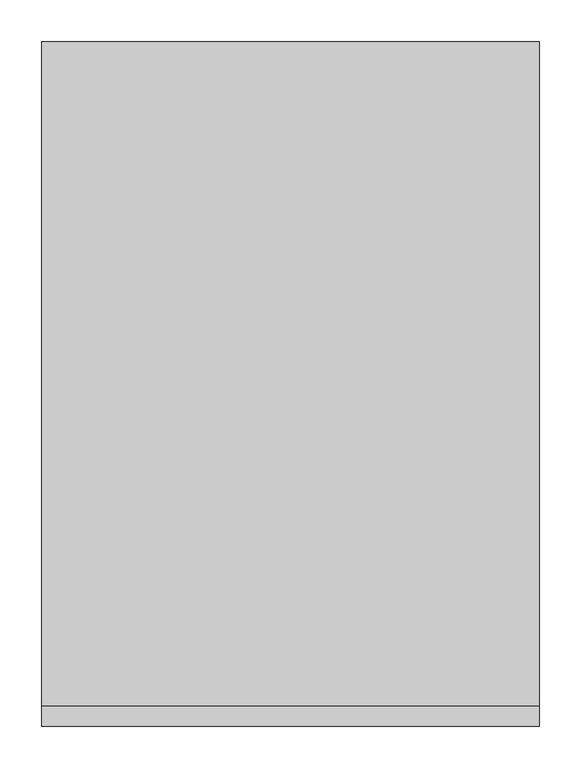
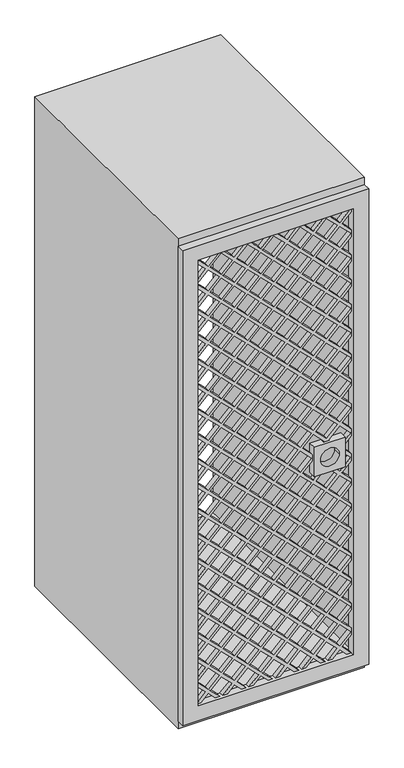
"""IFC4 building model written with IfcOpenShell, lengths in millimetres: furniture geometry, BIMHealth-Data_Acquisition_Cabinet_MRI-LOD2A-v1 : BIMHealth-Data_Acquisition_Cabinet_MRI-LOD2A-v1."""

from ifc_helpers import new_model, si_unit, point, frame, frame_2d, origin, place, context, project, spatial, polyline, circle_curve, trimmed, segment, composite_curve, outline, extrude, source, transform, mapped, element, save


def furniture_ba49cc1c(model_context):
    return source(origin(), model_context, "Body", "SweptSolid", [
        extrude(outline(polyline([(125.0, -250.0), (125.0, -235.8578644), (148.72583, -212.1320344), (125.0, -188.4062043), (125.0, -174.2640687), (155.7968978, -205.0609665), (191.1522369, -169.7056275), (155.7968978, -134.3502884), (125.0, -165.1471863), (125.0, -151.0050506), (148.72583, -127.2792206), (125.0, -103.5533906), (125.0, -89.411255), (155.7968978, -120.2081528), (191.1522369, -84.8528137), (155.7968978, -49.4974747), (125.0, -80.2943725), (125.0, -66.1522369), (148.72583, -42.4264069), (125.0, -18.7005769), (125.0, -4.5584412), (155.7968978, -35.3553391), (191.1522369, 0.0), (155.7968978, 35.3553391), (125.0, 4.5584412), (125.0, 18.7005769), (148.72583, 42.4264069), (125.0, 66.1522369), (125.0, 80.2943725), (155.7968978, 49.4974747), (191.1522369, 84.8528137), (155.7968978, 120.2081528), (125.0, 89.411255), (125.0, 103.5533906), (148.72583, 127.2792206), (125.0, 151.0050506), (125.0, 165.1471863), (155.7968978, 134.3502884), (191.1522369, 169.7056275), (155.7968978, 205.0609665), (125.0, 174.2640687), (125.0, 188.4062043), (148.72583, 212.1320344), (125.0, 235.8578644), (125.0, 250.0), (155.7968978, 219.2031022), (186.5937957, 250.0), (209.8528137, 250.0), (240.6497116, 219.2031022), (271.4466094, 250.0), (294.7056275, 250.0), (325.5025253, 219.2031022), (356.2994231, 250.0), (379.5584412, 250.0), (410.3553391, 219.2031022), (441.1522369, 250.0), (464.411255, 250.0), (495.2081528, 219.2031022), (526.0050506, 250.0), (549.2640687, 250.0), (580.0609665, 219.2031022), (610.8578644, 250.0), (634.1168825, 250.0), (664.9137803, 219.2031022), (695.7106781, 250.0), (718.9696962, 250.0), (749.766594, 219.2031022), (780.5634919, 250.0), (803.8225099, 250.0), (828.8225099, 225.0), (814.6803743, 225.0), (792.1930009, 247.4873734), (756.8376618, 212.1320344), (775.0, 193.9696962), (775.0, 179.8275606), (749.766594, 205.0609665), (714.411255, 169.7056275), (749.766594, 134.3502884), (775.0, 159.5836944), (775.0, 145.4415588), (756.8376618, 127.2792206), (792.1930009, 91.9238816), (825.2691193, 125.0), (843.9696962, 125.0), (877.0458146, 91.9238816), (912.4011537, 127.2792206), (877.0458146, 162.6345597), (875.0, 160.588745), (875.0, 178.8225099), (877.0458146, 176.7766953), (912.4011537, 212.1320344), (877.0458146, 247.4873734), (854.5584412, 225.0), (840.4163056, 225.0), (865.4163056, 250.0), (888.6753237, 250.0), (919.4722215, 219.2031022), (950.2691193, 250.0), (973.5281374, 250.0), (1004.3250353, 219.2031022), (1035.1219331, 250.0), (1058.3809512, 250.0), (1089.177849, 219.2031022), (1119.9747468, 250.0), (1143.2337649, 250.0), (1174.0306627, 219.2031022), (1204.8275606, 250.0), (1228.0865787, 250.0), (1258.8834765, 219.2031022), (1289.6803743, 250.0), (1312.9393924, 250.0), (1343.7362902, 219.2031022), (1374.5331881, 250.0), (1397.7922061, 250.0), (1428.589104, 219.2031022), (1459.3860018, 250.0), (1482.6450199, 250.0), (1513.4419177, 219.2031022), (1544.2388155, 250.0), (1567.4978336, 250.0), (1598.2947315, 219.2031022), (1629.0916293, 250.0), (1643.2337649, 250.0), (1605.3657993, 212.1320344), (1640.7211383, 176.7766953), (1645.0, 181.055557), (1645.0, 158.355698), (1640.7211383, 162.6345597), (1605.3657993, 127.2792206), (1640.7211383, 91.9238816), (1645.0, 96.2027432), (1645.0, 73.5028843), (1640.7211383, 77.7817459), (1605.3657993, 42.4264069), (1640.7211383, 7.0710678), (1645.0, 11.3499295), (1645.0, -11.3499295), (1640.7211383, -7.0710678), (1605.3657993, -42.4264069), (1640.7211383, -77.7817459), (1645.0, -73.5028843), (1645.0, -96.2027432), (1640.7211383, -91.9238816), (1605.3657993, -127.2792206), (1640.7211383, -162.6345597), (1645.0, -158.355698), (1645.0, -181.055557), (1640.7211383, -176.7766953), (1605.3657993, -212.1320344), (1643.2337649, -250.0), (1629.0916293, -250.0), (1598.2947315, -219.2031022), (1567.4978336, -250.0), (1544.2388155, -250.0), (1513.4419177, -219.2031022), (1482.6450199, -250.0), (1459.3860018, -250.0), (1428.589104, -219.2031022), (1397.7922061, -250.0), (1374.5331881, -250.0), (1343.7362902, -219.2031022), (1312.9393924, -250.0), (1289.6803743, -250.0), (1258.8834765, -219.2031022), (1228.0865787, -250.0), (1204.8275606, -250.0), (1174.0306627, -219.2031022), (1143.2337649, -250.0), (1119.9747468, -250.0), (1089.177849, -219.2031022), (1058.3809512, -250.0), (1035.1219331, -250.0), (1004.3250353, -219.2031022), (973.5281374, -250.0), (950.2691193, -250.0), (919.4722215, -219.2031022), (888.6753237, -250.0), (865.4163056, -250.0), (834.6194078, -219.2031022), (803.8225099, -250.0), (780.5634919, -250.0), (749.766594, -219.2031022), (718.9696962, -250.0), (695.7106781, -250.0), (664.9137803, -219.2031022), (634.1168825, -250.0), (610.8578644, -250.0), (580.0609665, -219.2031022), (549.2640687, -250.0), (526.0050506, -250.0), (495.2081528, -219.2031022), (464.411255, -250.0), (441.1522369, -250.0), (410.3553391, -219.2031022), (379.5584412, -250.0), (356.2994231, -250.0), (325.5025253, -219.2031022), (294.7056275, -250.0), (271.4466094, -250.0), (240.6497116, -219.2031022), (209.8528137, -250.0), (186.5937957, -250.0), (155.7968978, -219.2031022), (125.0, -250.0)]), holes=[polyline([(367.9289322, -7.0710678), (332.5735931, -42.4264069), (367.9289322, -77.7817459), (403.2842712, -42.4264069), (367.9289322, -7.0710678)]), polyline([(283.0761184, -91.9238816), (247.7207794, -127.2792206), (283.0761184, -162.6345597), (318.4314575, -127.2792206), (283.0761184, -91.9238816)]), polyline([(240.6497116, -134.3502884), (205.2943725, -169.7056275), (240.6497116, -205.0609665), (276.0050506, -169.7056275), (240.6497116, -134.3502884)]), polyline([(198.2233047, -176.7766953), (162.8679656, -212.1320344), (198.2233047, -247.4873734), (233.5786438, -212.1320344), (198.2233047, -176.7766953)]), polyline([(410.3553391, 35.3553391), (375.0, 0.0), (410.3553391, -35.3553391), (445.7106781, 0.0), (410.3553391, 35.3553391)]), polyline([(622.4873734, 247.4873734), (587.1320344, 212.1320344), (622.4873734, 176.7766953), (657.8427125, 212.1320344), (622.4873734, 247.4873734)]), polyline([(452.7817459, 77.7817459), (417.4264069, 42.4264069), (452.7817459, 7.0710678), (488.137085, 42.4264069), (452.7817459, 77.7817459)]), polyline([(495.2081528, 120.2081528), (459.8528137, 84.8528137), (495.2081528, 49.4974747), (530.5634919, 84.8528137), (495.2081528, 120.2081528)]), polyline([(325.5025253, -49.4974747), (290.1471863, -84.8528137), (325.5025253, -120.2081528), (360.8578644, -84.8528137), (325.5025253, -49.4974747)]), polyline([(537.6345597, 162.6345597), (502.2792206, 127.2792206), (537.6345597, 91.9238816), (572.9898987, 127.2792206), (537.6345597, 162.6345597)]), polyline([(580.0609665, 205.0609665), (544.7056275, 169.7056275), (580.0609665, 134.3502884), (615.4163056, 169.7056275), (580.0609665, 205.0609665)]), polyline([(325.5025253, -35.3553391), (360.8578644, 0.0), (325.5025253, 35.3553391), (290.1471863, 0.0), (325.5025253, -35.3553391)]), polyline([(240.6497116, -120.2081528), (276.0050506, -84.8528137), (240.6497116, -49.4974747), (205.2943725, -84.8528137), (240.6497116, -120.2081528)]), polyline([(198.2233047, -162.6345597), (233.5786438, -127.2792206), (198.2233047, -91.9238816), (162.8679656, -127.2792206), (198.2233047, -162.6345597)]), polyline([(367.9289322, 7.0710678), (403.2842712, 42.4264069), (367.9289322, 77.7817459), (332.5735931, 42.4264069), (367.9289322, 7.0710678)]), polyline([(410.3553391, 49.4974747), (445.7106781, 84.8528137), (410.3553391, 120.2081528), (375.0, 84.8528137), (410.3553391, 49.4974747)]), polyline([(452.7817459, 91.9238816), (488.137085, 127.2792206), (452.7817459, 162.6345597), (417.4264069, 127.2792206), (452.7817459, 91.9238816)]), polyline([(283.0761184, -77.7817459), (318.4314575, -42.4264069), (283.0761184, -7.0710678), (247.7207794, -42.4264069), (283.0761184, -77.7817459)]), polyline([(495.2081528, 134.3502884), (530.5634919, 169.7056275), (495.2081528, 205.0609665), (459.8528137, 169.7056275), (495.2081528, 134.3502884)]), polyline([(537.6345597, 176.7766953), (572.9898987, 212.1320344), (537.6345597, 247.4873734), (502.2792206, 212.1320344), (537.6345597, 176.7766953)]), polyline([(283.0761184, 7.0710678), (318.4314575, 42.4264069), (283.0761184, 77.7817459), (247.7207794, 42.4264069), (283.0761184, 7.0710678)]), polyline([(198.2233047, -77.7817459), (233.5786438, -42.4264069), (198.2233047, -7.0710678), (162.8679656, -42.4264069), (198.2233047, -77.7817459)]), polyline([(325.5025253, 49.4974747), (360.8578644, 84.8528137), (325.5025253, 120.2081528), (290.1471863, 84.8528137), (325.5025253, 49.4974747)]), polyline([(367.9289322, 91.9238816), (403.2842712, 127.2792206), (367.9289322, 162.6345597), (332.5735931, 127.2792206), (367.9289322, 91.9238816)]), polyline([(410.3553391, 134.3502884), (445.7106781, 169.7056275), (410.3553391, 205.0609665), (375.0, 169.7056275), (410.3553391, 134.3502884)]), polyline([(240.6497116, -35.3553391), (276.0050506, 0.0), (240.6497116, 35.3553391), (205.2943725, 0.0), (240.6497116, -35.3553391)]), polyline([(452.7817459, 176.7766953), (488.137085, 212.1320344), (452.7817459, 247.4873734), (417.4264069, 212.1320344), (452.7817459, 176.7766953)]), polyline([(240.6497116, 49.4974747), (276.0050506, 84.8528137), (240.6497116, 120.2081528), (205.2943725, 84.8528137), (240.6497116, 49.4974747)]), polyline([(283.0761184, 91.9238816), (318.4314575, 127.2792206), (283.0761184, 162.6345597), (247.7207794, 127.2792206), (283.0761184, 91.9238816)]), polyline([(325.5025253, 134.3502884), (360.8578644, 169.7056275), (325.5025253, 205.0609665), (290.1471863, 169.7056275), (325.5025253, 134.3502884)]), polyline([(367.9289322, 176.7766953), (403.2842712, 212.1320344), (367.9289322, 247.4873734), (332.5735931, 212.1320344), (367.9289322, 176.7766953)]), polyline([(198.2233047, 7.0710678), (233.5786438, 42.4264069), (198.2233047, 77.7817459), (162.8679656, 42.4264069), (198.2233047, 7.0710678)]), polyline([(198.2233047, 91.9238816), (233.5786438, 127.2792206), (198.2233047, 162.6345597), (162.8679656, 127.2792206), (198.2233047, 91.9238816)]), polyline([(240.6497116, 134.3502884), (276.0050506, 169.7056275), (240.6497116, 205.0609665), (205.2943725, 169.7056275), (240.6497116, 134.3502884)]), polyline([(283.0761184, 176.7766953), (318.4314575, 212.1320344), (283.0761184, 247.4873734), (247.7207794, 212.1320344), (283.0761184, 176.7766953)]), polyline([(198.2233047, 176.7766953), (233.5786438, 212.1320344), (198.2233047, 247.4873734), (162.8679656, 212.1320344), (198.2233047, 176.7766953)]), polyline([(410.3553391, -49.4974747), (375.0, -84.8528137), (410.3553391, -120.2081528), (445.7106781, -84.8528137), (410.3553391, -49.4974747)]), polyline([(325.5025253, -134.3502884), (290.1471863, -169.7056275), (325.5025253, -205.0609665), (360.8578644, -169.7056275), (325.5025253, -134.3502884)]), polyline([(283.0761184, -176.7766953), (247.7207794, -212.1320344), (283.0761184, -247.4873734), (318.4314575, -212.1320344), (283.0761184, -176.7766953)]), polyline([(452.7817459, -7.0710678), (417.4264069, -42.4264069), (452.7817459, -77.7817459), (488.137085, -42.4264069), (452.7817459, -7.0710678)]), polyline([(664.9137803, 205.0609665), (629.5584412, 169.7056275), (664.9137803, 134.3502884), (700.2691193, 169.7056275), (664.9137803, 205.0609665)]), polyline([(495.2081528, 35.3553391), (459.8528137, 0.0), (495.2081528, -35.3553391), (530.5634919, 0.0), (495.2081528, 35.3553391)]), polyline([(537.6345597, 77.7817459), (502.2792206, 42.4264069), (537.6345597, 7.0710678), (572.9898987, 42.4264069), (537.6345597, 77.7817459)]), polyline([(367.9289322, -91.9238816), (332.5735931, -127.2792206), (367.9289322, -162.6345597), (403.2842712, -127.2792206), (367.9289322, -91.9238816)]), polyline([(580.0609665, 120.2081528), (544.7056275, 84.8528137), (580.0609665, 49.4974747), (615.4163056, 84.8528137), (580.0609665, 120.2081528)]), polyline([(622.4873734, 162.6345597), (587.1320344, 127.2792206), (622.4873734, 91.9238816), (657.8427125, 127.2792206), (622.4873734, 162.6345597)]), polyline([(707.3401872, 247.4873734), (671.9848481, 212.1320344), (707.3401872, 176.7766953), (742.6955262, 212.1320344), (707.3401872, 247.4873734)]), polyline([(452.7817459, -162.6345597), (488.137085, -127.2792206), (452.7817459, -91.9238816), (417.4264069, -127.2792206), (452.7817459, -162.6345597)]), polyline([(367.9289322, -247.4873734), (403.2842712, -212.1320344), (367.9289322, -176.7766953), (332.5735931, -212.1320344), (367.9289322, -247.4873734)]), polyline([(495.2081528, -120.2081528), (530.5634919, -84.8528137), (495.2081528, -49.4974747), (459.8528137, -84.8528137), (495.2081528, -120.2081528)]), polyline([(707.3401872, 91.9238816), (742.6955262, 127.2792206), (707.3401872, 162.6345597), (671.9848481, 127.2792206), (707.3401872, 91.9238816)]), polyline([(537.6345597, -77.7817459), (572.9898987, -42.4264069), (537.6345597, -7.0710678), (502.2792206, -42.4264069), (537.6345597, -77.7817459)]), polyline([(580.0609665, -35.3553391), (615.4163056, 0.0), (580.0609665, 35.3553391), (544.7056275, 0.0), (580.0609665, -35.3553391)]), polyline([(410.3553391, -205.0609665), (445.7106781, -169.7056275), (410.3553391, -134.3502884), (375.0, -169.7056275), (410.3553391, -205.0609665)]), polyline([(622.4873734, 7.0710678), (657.8427125, 42.4264069), (622.4873734, 77.7817459), (587.1320344, 42.4264069), (622.4873734, 7.0710678)]), polyline([(664.9137803, 49.4974747), (700.2691193, 84.8528137), (664.9137803, 120.2081528), (629.5584412, 84.8528137), (664.9137803, 49.4974747)]), polyline([(495.2081528, -134.3502884), (459.8528137, -169.7056275), (495.2081528, -205.0609665), (530.5634919, -169.7056275), (495.2081528, -134.3502884)]), polyline([(537.6345597, -91.9238816), (502.2792206, -127.2792206), (537.6345597, -162.6345597), (572.9898987, -127.2792206), (537.6345597, -91.9238816)]), polyline([(749.766594, 120.2081528), (714.411255, 84.8528137), (749.766594, 49.4974747), (785.1219331, 84.8528137), (749.766594, 120.2081528)]), polyline([(580.0609665, -49.4974747), (544.7056275, -84.8528137), (580.0609665, -120.2081528), (615.4163056, -84.8528137), (580.0609665, -49.4974747)]), polyline([(622.4873734, -7.0710678), (587.1320344, -42.4264069), (622.4873734, -77.7817459), (657.8427125, -42.4264069), (622.4873734, -7.0710678)]), polyline([(452.7817459, -176.7766953), (417.4264069, -212.1320344), (452.7817459, -247.4873734), (488.137085, -212.1320344), (452.7817459, -176.7766953)]), polyline([(664.9137803, 35.3553391), (629.5584412, 0.0), (664.9137803, -35.3553391), (700.2691193, 0.0), (664.9137803, 35.3553391)]), polyline([(707.3401872, 77.7817459), (671.9848481, 42.4264069), (707.3401872, 7.0710678), (742.6955262, 42.4264069), (707.3401872, 77.7817459)]), polyline([(537.6345597, -176.7766953), (502.2792206, -212.1320344), (537.6345597, -247.4873734), (572.9898987, -212.1320344), (537.6345597, -176.7766953)]), polyline([(580.0609665, -134.3502884), (544.7056275, -169.7056275), (580.0609665, -205.0609665), (615.4163056, -169.7056275), (580.0609665, -134.3502884)]), polyline([(792.1930009, 77.7817459), (756.8376618, 42.4264069), (792.1930009, 7.0710678), (827.54834, 42.4264069), (792.1930009, 77.7817459)]), polyline([(622.4873734, -91.9238816), (587.1320344, -127.2792206), (622.4873734, -162.6345597), (657.8427125, -127.2792206), (622.4873734, -91.9238816)]), polyline([(664.9137803, -49.4974747), (629.5584412, -84.8528137), (664.9137803, -120.2081528), (700.2691193, -84.8528137), (664.9137803, -49.4974747)]), polyline([(707.3401872, -7.0710678), (671.9848481, -42.4264069), (707.3401872, -77.7817459), (742.6955262, -42.4264069), (707.3401872, -7.0710678)]), polyline([(749.766594, 35.3553391), (714.411255, 0.0), (749.766594, -35.3553391), (785.1219331, 0.0), (749.766594, 35.3553391)]), polyline([(834.6194078, 120.2081528), (799.2640687, 84.8528137), (834.6194078, 49.4974747), (869.9747468, 84.8528137), (834.6194078, 120.2081528)]), polyline([(961.8986284, 247.4873734), (926.5432893, 212.1320344), (961.8986284, 176.7766953), (997.2539674, 212.1320344), (961.8986284, 247.4873734)]), polyline([(919.4722215, 205.0609665), (884.1168825, 169.7056275), (919.4722215, 134.3502884), (954.8275606, 169.7056275), (919.4722215, 205.0609665)]), polyline([(622.4873734, -176.7766953), (587.1320344, -212.1320344), (622.4873734, -247.4873734), (657.8427125, -212.1320344), (622.4873734, -176.7766953)]), polyline([(834.6194078, 35.3553391), (799.2640687, 0.0), (834.6194078, -35.3553391), (869.9747468, 0.0), (834.6194078, 35.3553391)]), polyline([(1004.3250353, 205.0609665), (968.9696962, 169.7056275), (1004.3250353, 134.3502884), (1039.6803743, 169.7056275), (1004.3250353, 205.0609665)]), polyline([(1046.7514421, 247.4873734), (1011.3961031, 212.1320344), (1046.7514421, 176.7766953), (1082.1067812, 212.1320344), (1046.7514421, 247.4873734)]), polyline([(664.9137803, -134.3502884), (629.5584412, -169.7056275), (664.9137803, -205.0609665), (700.2691193, -169.7056275), (664.9137803, -134.3502884)]), polyline([(707.3401872, -91.9238816), (671.9848481, -127.2792206), (707.3401872, -162.6345597), (742.6955262, -127.2792206), (707.3401872, -91.9238816)]), polyline([(749.766594, -49.4974747), (714.411255, -84.8528137), (749.766594, -120.2081528), (785.1219331, -84.8528137), (749.766594, -49.4974747)]), polyline([(792.1930009, -7.0710678), (756.8376618, -42.4264069), (792.1930009, -77.7817459), (827.54834, -42.4264069), (792.1930009, -7.0710678)]), polyline([(961.8986284, 162.6345597), (926.5432893, 127.2792206), (961.8986284, 91.9238816), (997.2539674, 127.2792206), (961.8986284, 162.6345597)]), polyline([(877.0458146, 77.7817459), (841.6904756, 42.4264069), (877.0458146, 7.0710678), (912.4011537, 42.4264069), (877.0458146, 77.7817459)]), polyline([(919.4722215, 120.2081528), (884.1168825, 84.8528137), (919.4722215, 49.4974747), (954.8275606, 84.8528137), (919.4722215, 120.2081528)]), polyline([(877.0458146, -7.0710678), (841.6904756, -42.4264069), (877.0458146, -77.7817459), (912.4011537, -42.4264069), (877.0458146, -7.0710678)]), polyline([(1046.7514421, 162.6345597), (1011.3961031, 127.2792206), (1046.7514421, 91.9238816), (1082.1067812, 127.2792206), (1046.7514421, 162.6345597)]), polyline([(1089.177849, 205.0609665), (1053.8225099, 169.7056275), (1089.177849, 134.3502884), (1124.5331881, 169.7056275), (1089.177849, 205.0609665)]), polyline([(1131.6042559, 247.4873734), (1096.2489168, 212.1320344), (1131.6042559, 176.7766953), (1166.9595949, 212.1320344), (1131.6042559, 247.4873734)]), polyline([(707.3401872, -176.7766953), (671.9848481, -212.1320344), (707.3401872, -247.4873734), (742.6955262, -212.1320344), (707.3401872, -176.7766953)]), polyline([(749.766594, -134.3502884), (714.411255, -169.7056275), (749.766594, -205.0609665), (785.1219331, -169.7056275), (749.766594, -134.3502884)]), polyline([(792.1930009, -91.9238816), (756.8376618, -127.2792206), (792.1930009, -162.6345597), (827.54834, -127.2792206), (792.1930009, -91.9238816)]), polyline([(834.6194078, -49.4974747), (799.2640687, -84.8528137), (834.6194078, -120.2081528), (869.9747468, -84.8528137), (834.6194078, -49.4974747)]), polyline([(1004.3250353, 120.2081528), (968.9696962, 84.8528137), (1004.3250353, 49.4974747), (1039.6803743, 84.8528137), (1004.3250353, 120.2081528)]), polyline([(919.4722215, 35.3553391), (884.1168825, 0.0), (919.4722215, -35.3553391), (954.8275606, 0.0), (919.4722215, 35.3553391)]), polyline([(961.8986284, 77.7817459), (926.5432893, 42.4264069), (961.8986284, 7.0710678), (997.2539674, 42.4264069), (961.8986284, 77.7817459)]), polyline([(919.4722215, -49.4974747), (884.1168825, -84.8528137), (919.4722215, -120.2081528), (954.8275606, -84.8528137), (919.4722215, -49.4974747)]), polyline([(1089.177849, 120.2081528), (1053.8225099, 84.8528137), (1089.177849, 49.4974747), (1124.5331881, 84.8528137), (1089.177849, 120.2081528)]), polyline([(1131.6042559, 162.6345597), (1096.2489168, 127.2792206), (1131.6042559, 91.9238816), (1166.9595949, 127.2792206), (1131.6042559, 162.6345597)]), polyline([(1174.0306627, 205.0609665), (1138.6753237, 169.7056275), (1174.0306627, 134.3502884), (1209.3860018, 169.7056275), (1174.0306627, 205.0609665)]), polyline([(1216.4570696, 247.4873734), (1181.1017306, 212.1320344), (1216.4570696, 176.7766953), (1251.8124087, 212.1320344), (1216.4570696, 247.4873734)]), polyline([(792.1930009, -176.7766953), (756.8376618, -212.1320344), (792.1930009, -247.4873734), (827.54834, -212.1320344), (792.1930009, -176.7766953)]), polyline([(834.6194078, -134.3502884), (799.2640687, -169.7056275), (834.6194078, -205.0609665), (869.9747468, -169.7056275), (834.6194078, -134.3502884)]), polyline([(877.0458146, -91.9238816), (841.6904756, -127.2792206), (877.0458146, -162.6345597), (912.4011537, -127.2792206), (877.0458146, -91.9238816)]), polyline([(1046.7514421, 77.7817459), (1011.3961031, 42.4264069), (1046.7514421, 7.0710678), (1082.1067812, 42.4264069), (1046.7514421, 77.7817459)]), polyline([(961.8986284, -7.0710678), (926.5432893, -42.4264069), (961.8986284, -77.7817459), (997.2539674, -42.4264069), (961.8986284, -7.0710678)]), polyline([(1004.3250353, 35.3553391), (968.9696962, 0.0), (1004.3250353, -35.3553391), (1039.6803743, 0.0), (1004.3250353, 35.3553391)]), polyline([(961.8986284, -91.9238816), (926.5432893, -127.2792206), (961.8986284, -162.6345597), (997.2539674, -127.2792206), (961.8986284, -91.9238816)]), polyline([(1131.6042559, 77.7817459), (1096.2489168, 42.4264069), (1131.6042559, 7.0710678), (1166.9595949, 42.4264069), (1131.6042559, 77.7817459)]), polyline([(1174.0306627, 120.2081528), (1138.6753237, 84.8528137), (1174.0306627, 49.4974747), (1209.3860018, 84.8528137), (1174.0306627, 120.2081528)]), polyline([(1216.4570696, 162.6345597), (1181.1017306, 127.2792206), (1216.4570696, 91.9238816), (1251.8124087, 127.2792206), (1216.4570696, 162.6345597)]), polyline([(1258.8834765, 205.0609665), (1223.5281374, 169.7056275), (1258.8834765, 134.3502884), (1294.2388155, 169.7056275), (1258.8834765, 205.0609665)]), polyline([(1301.3098834, 247.4873734), (1265.9545443, 212.1320344), (1301.3098834, 176.7766953), (1336.6652224, 212.1320344), (1301.3098834, 247.4873734)]), polyline([(877.0458146, -176.7766953), (841.6904756, -212.1320344), (877.0458146, -247.4873734), (912.4011537, -212.1320344), (877.0458146, -176.7766953)]), polyline([(919.4722215, -134.3502884), (884.1168825, -169.7056275), (919.4722215, -205.0609665), (954.8275606, -169.7056275), (919.4722215, -134.3502884)]), polyline([(1089.177849, 35.3553391), (1053.8225099, 0.0), (1089.177849, -35.3553391), (1124.5331881, 0.0), (1089.177849, 35.3553391)]), polyline([(1004.3250353, -49.4974747), (968.9696962, -84.8528137), (1004.3250353, -120.2081528), (1039.6803743, -84.8528137), (1004.3250353, -49.4974747)]), polyline([(1046.7514421, -7.0710678), (1011.3961031, -42.4264069), (1046.7514421, -77.7817459), (1082.1067812, -42.4264069), (1046.7514421, -7.0710678)]), polyline([(1343.7362902, -134.3502884), (1308.3809512, -169.7056275), (1343.7362902, -205.0609665), (1379.0916293, -169.7056275), (1343.7362902, -134.3502884)]), polyline([(1386.1626971, -91.9238816), (1350.807358, -127.2792206), (1386.1626971, -162.6345597), (1421.5180362, -127.2792206), (1386.1626971, -91.9238816)]), polyline([(1428.589104, -49.4974747), (1393.2337649, -84.8528137), (1428.589104, -120.2081528), (1463.944443, -84.8528137), (1428.589104, -49.4974747)]), polyline([(1471.0155108, -7.0710678), (1435.6601718, -42.4264069), (1471.0155108, -77.7817459), (1506.3708499, -42.4264069), (1471.0155108, -7.0710678)]), polyline([(1513.4419177, 35.3553391), (1478.0865787, 0.0), (1513.4419177, -35.3553391), (1548.7972568, 0.0), (1513.4419177, 35.3553391)]), polyline([(1555.8683246, 77.7817459), (1520.5129855, 42.4264069), (1555.8683246, 7.0710678), (1591.2236636, 42.4264069), (1555.8683246, 77.7817459)]), polyline([(1598.2947315, 120.2081528), (1562.9393924, 84.8528137), (1598.2947315, 49.4974747), (1633.6500705, 84.8528137), (1598.2947315, 120.2081528)]), polyline([(1301.3098834, -176.7766953), (1265.9545443, -212.1320344), (1301.3098834, -247.4873734), (1336.6652224, -212.1320344), (1301.3098834, -176.7766953)]), polyline([(1386.1626971, -176.7766953), (1350.807358, -212.1320344), (1386.1626971, -247.4873734), (1421.5180362, -212.1320344), (1386.1626971, -176.7766953)]), polyline([(1428.589104, -134.3502884), (1393.2337649, -169.7056275), (1428.589104, -205.0609665), (1463.944443, -169.7056275), (1428.589104, -134.3502884)]), polyline([(1471.0155108, -91.9238816), (1435.6601718, -127.2792206), (1471.0155108, -162.6345597), (1506.3708499, -127.2792206), (1471.0155108, -91.9238816)]), polyline([(1513.4419177, -49.4974747), (1478.0865787, -84.8528137), (1513.4419177, -120.2081528), (1548.7972568, -84.8528137), (1513.4419177, -49.4974747)]), polyline([(1555.8683246, -7.0710678), (1520.5129855, -42.4264069), (1555.8683246, -77.7817459), (1591.2236636, -42.4264069), (1555.8683246, -7.0710678)]), polyline([(1598.2947315, 35.3553391), (1562.9393924, 0.0), (1598.2947315, -35.3553391), (1633.6500705, 0.0), (1598.2947315, 35.3553391)]), polyline([(1471.0155108, -176.7766953), (1435.6601718, -212.1320344), (1471.0155108, -247.4873734), (1506.3708499, -212.1320344), (1471.0155108, -176.7766953)]), polyline([(1513.4419177, -134.3502884), (1478.0865787, -169.7056275), (1513.4419177, -205.0609665), (1548.7972568, -169.7056275), (1513.4419177, -134.3502884)]), polyline([(1555.8683246, -91.9238816), (1520.5129855, -127.2792206), (1555.8683246, -162.6345597), (1591.2236636, -127.2792206), (1555.8683246, -91.9238816)]), polyline([(1598.2947315, -49.4974747), (1562.9393924, -84.8528137), (1598.2947315, -120.2081528), (1633.6500705, -84.8528137), (1598.2947315, -49.4974747)]), polyline([(1004.3250353, -134.3502884), (968.9696962, -169.7056275), (1004.3250353, -205.0609665), (1039.6803743, -169.7056275), (1004.3250353, -134.3502884)]), polyline([(1174.0306627, 35.3553391), (1138.6753237, 0.0), (1174.0306627, -35.3553391), (1209.3860018, 0.0), (1174.0306627, 35.3553391)]), polyline([(1216.4570696, 77.7817459), (1181.1017306, 42.4264069), (1216.4570696, 7.0710678), (1251.8124087, 42.4264069), (1216.4570696, 77.7817459)]), polyline([(1258.8834765, 120.2081528), (1223.5281374, 84.8528137), (1258.8834765, 49.4974747), (1294.2388155, 84.8528137), (1258.8834765, 120.2081528)]), polyline([(1301.3098834, 162.6345597), (1265.9545443, 127.2792206), (1301.3098834, 91.9238816), (1336.6652224, 127.2792206), (1301.3098834, 162.6345597)]), polyline([(1343.7362902, 205.0609665), (1308.3809512, 169.7056275), (1343.7362902, 134.3502884), (1379.0916293, 169.7056275), (1343.7362902, 205.0609665)]), polyline([(1386.1626971, 247.4873734), (1350.807358, 212.1320344), (1386.1626971, 176.7766953), (1421.5180362, 212.1320344), (1386.1626971, 247.4873734)]), polyline([(961.8986284, -176.7766953), (926.5432893, -212.1320344), (961.8986284, -247.4873734), (997.2539674, -212.1320344), (961.8986284, -176.7766953)]), polyline([(1131.6042559, -7.0710678), (1096.2489168, -42.4264069), (1131.6042559, -77.7817459), (1166.9595949, -42.4264069), (1131.6042559, -7.0710678)]), polyline([(1046.7514421, -91.9238816), (1011.3961031, -127.2792206), (1046.7514421, -162.6345597), (1082.1067812, -127.2792206), (1046.7514421, -91.9238816)]), polyline([(1089.177849, -49.4974747), (1053.8225099, -84.8528137), (1089.177849, -120.2081528), (1124.5331881, -84.8528137), (1089.177849, -49.4974747)]), polyline([(1046.7514421, -176.7766953), (1011.3961031, -212.1320344), (1046.7514421, -247.4873734), (1082.1067812, -212.1320344), (1046.7514421, -176.7766953)]), polyline([(1216.4570696, -7.0710678), (1181.1017306, -42.4264069), (1216.4570696, -77.7817459), (1251.8124087, -42.4264069), (1216.4570696, -7.0710678)]), polyline([(1258.8834765, 35.3553391), (1223.5281374, 0.0), (1258.8834765, -35.3553391), (1294.2388155, 0.0), (1258.8834765, 35.3553391)]), polyline([(1301.3098834, 77.7817459), (1265.9545443, 42.4264069), (1301.3098834, 7.0710678), (1336.6652224, 42.4264069), (1301.3098834, 77.7817459)]), polyline([(1343.7362902, 120.2081528), (1308.3809512, 84.8528137), (1343.7362902, 49.4974747), (1379.0916293, 84.8528137), (1343.7362902, 120.2081528)]), polyline([(1386.1626971, 162.6345597), (1350.807358, 127.2792206), (1386.1626971, 91.9238816), (1421.5180362, 127.2792206), (1386.1626971, 162.6345597)]), polyline([(1428.589104, 205.0609665), (1393.2337649, 169.7056275), (1428.589104, 134.3502884), (1463.944443, 169.7056275), (1428.589104, 205.0609665)]), polyline([(1471.0155108, 247.4873734), (1435.6601718, 212.1320344), (1471.0155108, 176.7766953), (1506.3708499, 212.1320344), (1471.0155108, 247.4873734)]), polyline([(1174.0306627, -49.4974747), (1138.6753237, -84.8528137), (1174.0306627, -120.2081528), (1209.3860018, -84.8528137), (1174.0306627, -49.4974747)]), polyline([(1089.177849, -134.3502884), (1053.8225099, -169.7056275), (1089.177849, -205.0609665), (1124.5331881, -169.7056275), (1089.177849, -134.3502884)]), polyline([(1131.6042559, -91.9238816), (1096.2489168, -127.2792206), (1131.6042559, -162.6345597), (1166.9595949, -127.2792206), (1131.6042559, -91.9238816)]), polyline([(1301.3098834, -91.9238816), (1265.9545443, -127.2792206), (1301.3098834, -162.6345597), (1336.6652224, -127.2792206), (1301.3098834, -91.9238816)]), polyline([(1343.7362902, -49.4974747), (1308.3809512, -84.8528137), (1343.7362902, -120.2081528), (1379.0916293, -84.8528137), (1343.7362902, -49.4974747)]), polyline([(1386.1626971, -7.0710678), (1350.807358, -42.4264069), (1386.1626971, -77.7817459), (1421.5180362, -42.4264069), (1386.1626971, -7.0710678)]), polyline([(1428.589104, 35.3553391), (1393.2337649, 0.0), (1428.589104, -35.3553391), (1463.944443, 0.0), (1428.589104, 35.3553391)]), polyline([(1471.0155108, 77.7817459), (1435.6601718, 42.4264069), (1471.0155108, 7.0710678), (1506.3708499, 42.4264069), (1471.0155108, 77.7817459)]), polyline([(1513.4419177, 120.2081528), (1478.0865787, 84.8528137), (1513.4419177, 49.4974747), (1548.7972568, 84.8528137), (1513.4419177, 120.2081528)]), polyline([(1555.8683246, 162.6345597), (1520.5129855, 127.2792206), (1555.8683246, 91.9238816), (1591.2236636, 127.2792206), (1555.8683246, 162.6345597)]), polyline([(1598.2947315, 205.0609665), (1562.9393924, 169.7056275), (1598.2947315, 134.3502884), (1633.6500705, 169.7056275), (1598.2947315, 205.0609665)]), polyline([(1258.8834765, -134.3502884), (1223.5281374, -169.7056275), (1258.8834765, -205.0609665), (1294.2388155, -169.7056275), (1258.8834765, -134.3502884)]), polyline([(1216.4570696, -176.7766953), (1181.1017306, -212.1320344), (1216.4570696, -247.4873734), (1251.8124087, -212.1320344), (1216.4570696, -176.7766953)]), polyline([(1258.8834765, -120.2081528), (1294.2388155, -84.8528137), (1258.8834765, -49.4974747), (1223.5281374, -84.8528137), (1258.8834765, -120.2081528)]), polyline([(1301.3098834, -77.7817459), (1336.6652224, -42.4264069), (1301.3098834, -7.0710678), (1265.9545443, -42.4264069), (1301.3098834, -77.7817459)]), polyline([(1343.7362902, -35.3553391), (1379.0916293, 0.0), (1343.7362902, 35.3553391), (1308.3809512, 0.0), (1343.7362902, -35.3553391)]), polyline([(1386.1626971, 7.0710678), (1421.5180362, 42.4264069), (1386.1626971, 77.7817459), (1350.807358, 42.4264069), (1386.1626971, 7.0710678)]), polyline([(1428.589104, 49.4974747), (1463.944443, 84.8528137), (1428.589104, 120.2081528), (1393.2337649, 84.8528137), (1428.589104, 49.4974747)]), polyline([(1471.0155108, 91.9238816), (1506.3708499, 127.2792206), (1471.0155108, 162.6345597), (1435.6601718, 127.2792206), (1471.0155108, 91.9238816)]), polyline([(1513.4419177, 134.3502884), (1548.7972568, 169.7056275), (1513.4419177, 205.0609665), (1478.0865787, 169.7056275), (1513.4419177, 134.3502884)]), polyline([(1555.8683246, 176.7766953), (1591.2236636, 212.1320344), (1555.8683246, 247.4873734), (1520.5129855, 212.1320344), (1555.8683246, 176.7766953)]), polyline([(1216.4570696, -162.6345597), (1251.8124087, -127.2792206), (1216.4570696, -91.9238816), (1181.1017306, -127.2792206), (1216.4570696, -162.6345597)]), polyline([(1131.6042559, -247.4873734), (1166.9595949, -212.1320344), (1131.6042559, -176.7766953), (1096.2489168, -212.1320344), (1131.6042559, -247.4873734)]), polyline([(1174.0306627, -205.0609665), (1209.3860018, -169.7056275), (1174.0306627, -134.3502884), (1138.6753237, -169.7056275), (1174.0306627, -205.0609665)]), polyline([(1555.8683246, -176.7766953), (1520.5129855, -212.1320344), (1555.8683246, -247.4873734), (1591.2236636, -212.1320344), (1555.8683246, -176.7766953)]), polyline([(1598.2947315, -134.3502884), (1562.9393924, -169.7056275), (1598.2947315, -205.0609665), (1633.6500705, -169.7056275), (1598.2947315, -134.3502884)])]), frame((0.0, -415.0, 0.0), z_axis=(0.0, 1.0, 0.0), x_axis=(0.0, 0.0, 1.0)), (0.0, 0.0, 1.0), 15.0),
        extrude(outline(polyline([(75.0, -300.0), (75.0, 300.0), (1695.0, 300.0), (1695.0, -300.0), (75.0, -300.0)]), holes=[polyline([(1645.0, 250.0), (125.0, 250.0), (125.0, -250.0), (1645.0, -250.0), (1645.0, 250.0)])]), frame((0.0, -425.0, 0.0), z_axis=(0.0, 1.0, 0.0), x_axis=(0.0, 0.0, 1.0)), (0.0, 0.0, 1.0), 25.0),
        extrude(outline(polyline([(875.0, 125.0), (775.0, 125.0), (775.0, 225.0), (875.0, 225.0), (875.0, 125.0)]), holes=[composite_curve([segment(trimmed(circle_curve(frame_2d((825.0, 175.0)), 30.0), [point((825.0, 145.0))], [point((825.0, 205.0))], True, "CARTESIAN"), True, "CONTINUOUS"), segment(trimmed(circle_curve(frame_2d((825.0, 175.0)), 30.0), [point((825.0, 205.0))], [point((825.0, 145.0))], True, "CARTESIAN"), True, "CONTINUOUS")], self_intersect=False)]), frame((0.0, -425.0, 0.0), z_axis=(0.0, 1.0, 0.0), x_axis=(0.0, 0.0, 1.0)), (0.0, 0.0, 1.0), 25.0),
        extrude(outline(polyline([(1720.0, -300.0), (50.0, -300.0), (50.0, 300.0), (1720.0, 300.0), (1720.0, -300.0)]), holes=[polyline([(1670.0, 275.0), (100.0, 275.0), (100.0, -275.0), (1670.0, -275.0), (1670.0, 275.0)])]), frame((0.0, -400.0, 0.0), z_axis=(0.0, 1.0, 0.0), x_axis=(0.0, 0.0, 1.0)), (0.0, 0.0, 1.0), 800.0),
    ])


if __name__ == "__main__":
    model = new_model("IFC4")
    model_context = context("Model", 3, world=origin())
    ifc_project = project(units=[si_unit("LENGTHUNIT", "METRE", prefix="MILLI")], contexts=[model_context])
    site = spatial("IfcSite", under=ifc_project)
    building = spatial("IfcBuilding", under=site)
    placement = place(None, origin())
    furniture_shape = furniture_ba49cc1c(model_context)
    element("IfcFurniture", 1, ObjectType="BIMHealth-Data_Acquisition_Cabinet_MRI-LOD2A-v1 : BIMHealth-Data_Acquisition_Cabinet_MRI-LOD2A-v1", at=placement, inside=building, context=model_context, shape_type="MappedRepresentation", body=[
        mapped(furniture_shape, transform((0.0, 0.0, 0.0), x_axis=(1.0, 0.0, 0.0), y_axis=(0.0, 1.0, 0.0), z_axis=(0.0, 0.0, 1.0))),
    ])
    save(model, "model.ifc")
